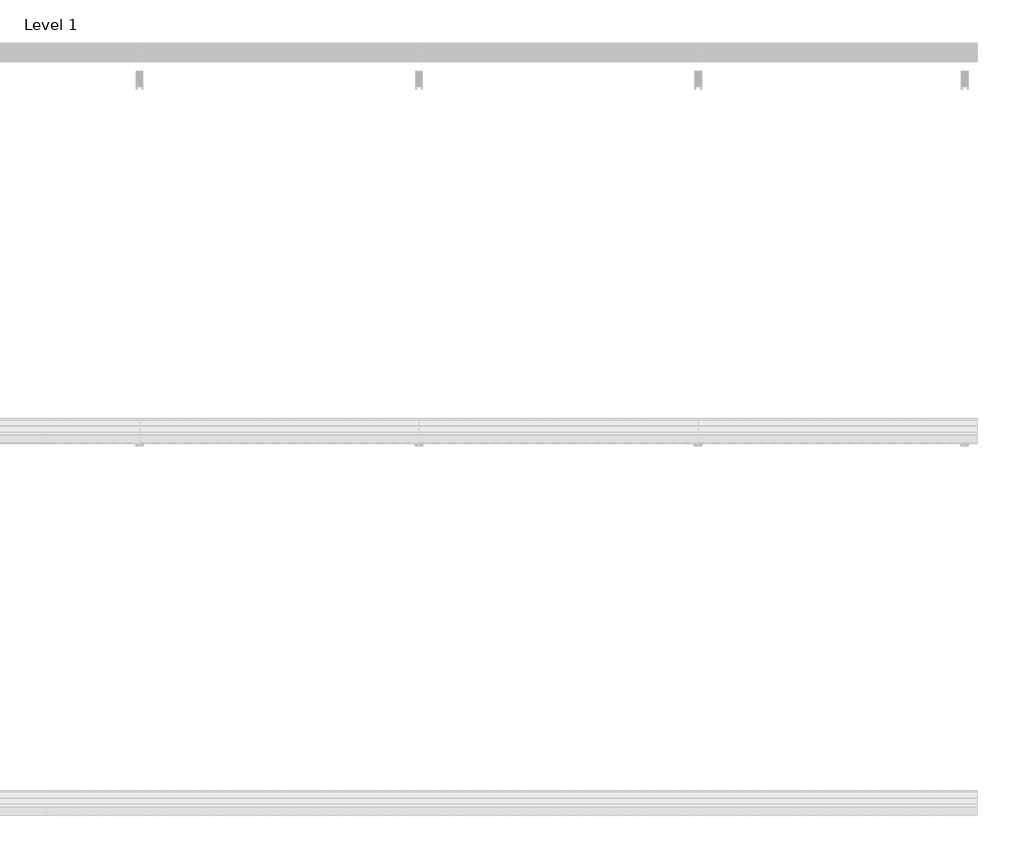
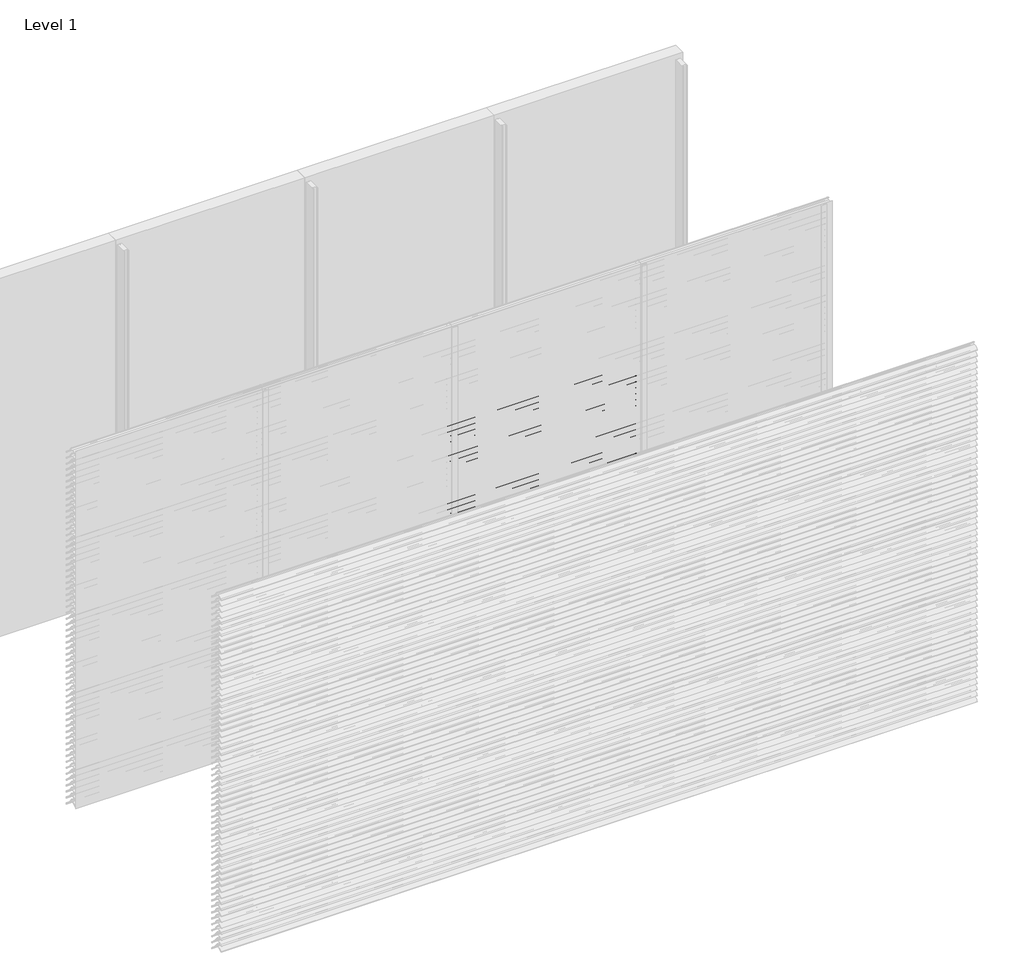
# One storey, part 100 of 173: 17 proxies.
"""IFC4 building model written with IfcOpenShell, lengths in millimetres."""

from ifc_helpers import new_model, si_unit, point, frame, frame_2d, origin, place, context, project, spatial, polyline, circle_curve, trimmed, segment, composite_curve, outline, extrude, element, save

model = new_model("IFC4")

# Units and contexts
model_context = context("Model", 3, world=origin())
ifc_project = project(units=[si_unit("LENGTHUNIT", "METRE", prefix="MILLI")], contexts=[model_context])

# Site, building, storey
site = spatial("IfcSite", under=ifc_project)
building = spatial("IfcBuilding", under=site)
storey = spatial("IfcBuildingStorey", under=building, Name="Level 1", Elevation=0.0)

# Proxies
placement = place(None, origin())
element("IfcBuildingElementProxy", 1, Name="Wall Sweeps", at=placement, inside=storey, context=model_context, shape_type="SweptSolid", body=[
    extrude(outline(composite_curve([segment(polyline([(-23998.0, 2109.1474905), (-23998.0, 2111.6227417)]), True, "CONTINUOUS"), segment(trimmed(circle_curve(frame_2d((-23951.2682172, 2066.2200208)), 65.1557103), [point((-23998.0, 2111.6227417))], [point((-23954.4014323, 2131.3003524))], False, "CARTESIAN"), True, "CONTINUOUS"), segment(polyline([(-23954.4014323, 2131.3003524), (-23934.8315836, 2131.3003524)]), True, "CONTINUOUS"), segment(trimmed(circle_curve(frame_2d((-23732.7329489, 2278.5533172)), 250.0545817), [point((-23934.8315836, 2131.3003524))], [point((-23941.4452143, 2140.8344583))], False, "CARTESIAN"), True, "CONTINUOUS"), segment(trimmed(circle_curve(frame_2d((-23953.2981792, 2135.1737835)), 13.1352966), [point((-23941.4452143, 2140.8344583))], [point((-23953.8171475, 2148.298824))], True, "CARTESIAN"), True, "CONTINUOUS"), segment(polyline([(-23953.8171475, 2148.298824), (-23953.8171475, 2150.0)]), True, "CONTINUOUS"), segment(trimmed(circle_curve(frame_2d((-23953.2981792, 2135.1737835)), 14.8352966), [point((-23953.8171475, 2150.0))], [point((-23939.9637661, 2141.6760487))], False, "CARTESIAN"), True, "CONTINUOUS"), segment(trimmed(circle_curve(frame_2d((-23732.7329489, 2278.5533172)), 248.3545817), [point((-23939.9637661, 2141.6760487))], [point((-23873.8787895, 2074.2059416))], True, "CARTESIAN"), True, "CONTINUOUS"), segment(trimmed(circle_curve(frame_2d((-23883.8147537, 2061.6649442)), 16.0), [point((-23873.8787895, 2074.2059416))], [point((-23867.8648347, 2060.4))], False, "CARTESIAN"), True, "CONTINUOUS"), segment(polyline([(-23867.8648347, 2060.4), (-23869.6712069, 2060.4)]), True, "CONTINUOUS"), segment(trimmed(circle_curve(frame_2d((-23883.8147537, 2061.6649442)), 14.2), [point((-23869.6712069, 2060.4))], [point((-23874.9518628, 2072.7594998))], True, "CARTESIAN"), True, "CONTINUOUS"), segment(trimmed(circle_curve(frame_2d((-23732.7329489, 2278.5533172)), 250.1545817), [point((-23874.9518628, 2072.7594998))], [point((-23933.7064024, 2129.6003524))], False, "CARTESIAN"), True, "CONTINUOUS"), segment(polyline([(-23933.7064024, 2129.6003524), (-23954.3602632, 2129.6003524)]), True, "CONTINUOUS"), segment(trimmed(circle_curve(frame_2d((-23951.2682172, 2066.2200208)), 63.4557103), [point((-23954.3602632, 2129.6003524))], [point((-23998.0, 2109.1474905))], True, "CARTESIAN"), True, "CONTINUOUS")], self_intersect=False)), frame((3000.0, 0.0, 0.0), z_axis=(1.0, 0.0, 0.0), x_axis=(0.0, 1.0, 0.0)), (0.0, 0.0, 1.0), 1500.0),
])
element("IfcBuildingElementProxy", 2, Name="Wall Sweeps", at=placement, inside=storey, context=model_context, shape_type="SweptSolid", body=[
    extrude(outline(composite_curve([segment(polyline([(-23998.0, 2059.1474905), (-23998.0, 2061.6227417)]), True, "CONTINUOUS"), segment(trimmed(circle_curve(frame_2d((-23951.2682172, 2016.2200208)), 65.1557103), [point((-23998.0, 2061.6227417))], [point((-23954.4014323, 2081.3003524))], False, "CARTESIAN"), True, "CONTINUOUS"), segment(polyline([(-23954.4014323, 2081.3003524), (-23934.8315836, 2081.3003524)]), True, "CONTINUOUS"), segment(trimmed(circle_curve(frame_2d((-23732.7329489, 2228.5533172)), 250.0545817), [point((-23934.8315836, 2081.3003524))], [point((-23941.4452143, 2090.8344583))], False, "CARTESIAN"), True, "CONTINUOUS"), segment(trimmed(circle_curve(frame_2d((-23953.2981792, 2085.1737835)), 13.1352966), [point((-23941.4452143, 2090.8344583))], [point((-23953.8171475, 2098.298824))], True, "CARTESIAN"), True, "CONTINUOUS"), segment(polyline([(-23953.8171475, 2098.298824), (-23953.8171475, 2100.0)]), True, "CONTINUOUS"), segment(trimmed(circle_curve(frame_2d((-23953.2981792, 2085.1737835)), 14.8352966), [point((-23953.8171475, 2100.0))], [point((-23939.9637661, 2091.6760487))], False, "CARTESIAN"), True, "CONTINUOUS"), segment(trimmed(circle_curve(frame_2d((-23732.7329489, 2228.5533172)), 248.3545817), [point((-23939.9637661, 2091.6760487))], [point((-23873.8787895, 2024.2059416))], True, "CARTESIAN"), True, "CONTINUOUS"), segment(trimmed(circle_curve(frame_2d((-23883.8147537, 2011.6649442)), 16.0), [point((-23873.8787895, 2024.2059416))], [point((-23867.8648347, 2010.4))], False, "CARTESIAN"), True, "CONTINUOUS"), segment(polyline([(-23867.8648347, 2010.4), (-23869.6712069, 2010.4)]), True, "CONTINUOUS"), segment(trimmed(circle_curve(frame_2d((-23883.8147537, 2011.6649442)), 14.2), [point((-23869.6712069, 2010.4))], [point((-23874.9518628, 2022.7594998))], True, "CARTESIAN"), True, "CONTINUOUS"), segment(trimmed(circle_curve(frame_2d((-23732.7329489, 2228.5533172)), 250.1545817), [point((-23874.9518628, 2022.7594998))], [point((-23933.7064024, 2079.6003524))], False, "CARTESIAN"), True, "CONTINUOUS"), segment(polyline([(-23933.7064024, 2079.6003524), (-23954.3602632, 2079.6003524)]), True, "CONTINUOUS"), segment(trimmed(circle_curve(frame_2d((-23951.2682172, 2016.2200208)), 63.4557103), [point((-23954.3602632, 2079.6003524))], [point((-23998.0, 2059.1474905))], True, "CARTESIAN"), True, "CONTINUOUS")], self_intersect=False)), frame((3000.0, 0.0, 0.0), z_axis=(1.0, 0.0, 0.0), x_axis=(0.0, 1.0, 0.0)), (0.0, 0.0, 1.0), 1500.0),
])
element("IfcBuildingElementProxy", 3, Name="Wall Sweeps", at=placement, inside=storey, context=model_context, shape_type="SweptSolid", body=[
    extrude(outline(composite_curve([segment(polyline([(-23998.0, 2009.1474905), (-23998.0, 2011.6227417)]), True, "CONTINUOUS"), segment(trimmed(circle_curve(frame_2d((-23951.2682172, 1966.2200208)), 65.1557103), [point((-23998.0, 2011.6227417))], [point((-23954.4014323, 2031.3003524))], False, "CARTESIAN"), True, "CONTINUOUS"), segment(polyline([(-23954.4014323, 2031.3003524), (-23934.8315836, 2031.3003524)]), True, "CONTINUOUS"), segment(trimmed(circle_curve(frame_2d((-23732.7329489, 2178.5533172)), 250.0545817), [point((-23934.8315836, 2031.3003524))], [point((-23941.4452143, 2040.8344583))], False, "CARTESIAN"), True, "CONTINUOUS"), segment(trimmed(circle_curve(frame_2d((-23953.2981792, 2035.1737835)), 13.1352966), [point((-23941.4452143, 2040.8344583))], [point((-23953.8171475, 2048.298824))], True, "CARTESIAN"), True, "CONTINUOUS"), segment(polyline([(-23953.8171475, 2048.298824), (-23953.8171475, 2050.0)]), True, "CONTINUOUS"), segment(trimmed(circle_curve(frame_2d((-23953.2981792, 2035.1737835)), 14.8352966), [point((-23953.8171475, 2050.0))], [point((-23939.9637661, 2041.6760487))], False, "CARTESIAN"), True, "CONTINUOUS"), segment(trimmed(circle_curve(frame_2d((-23732.7329489, 2178.5533172)), 248.3545817), [point((-23939.9637661, 2041.6760487))], [point((-23873.8787895, 1974.2059416))], True, "CARTESIAN"), True, "CONTINUOUS"), segment(trimmed(circle_curve(frame_2d((-23883.8147537, 1961.6649442)), 16.0), [point((-23873.8787895, 1974.2059416))], [point((-23867.8648347, 1960.4))], False, "CARTESIAN"), True, "CONTINUOUS"), segment(polyline([(-23867.8648347, 1960.4), (-23869.6712069, 1960.4)]), True, "CONTINUOUS"), segment(trimmed(circle_curve(frame_2d((-23883.8147537, 1961.6649442)), 14.2), [point((-23869.6712069, 1960.4))], [point((-23874.9518628, 1972.7594998))], True, "CARTESIAN"), True, "CONTINUOUS"), segment(trimmed(circle_curve(frame_2d((-23732.7329489, 2178.5533172)), 250.1545817), [point((-23874.9518628, 1972.7594998))], [point((-23933.7064024, 2029.6003524))], False, "CARTESIAN"), True, "CONTINUOUS"), segment(polyline([(-23933.7064024, 2029.6003524), (-23954.3602632, 2029.6003524)]), True, "CONTINUOUS"), segment(trimmed(circle_curve(frame_2d((-23951.2682172, 1966.2200208)), 63.4557103), [point((-23954.3602632, 2029.6003524))], [point((-23998.0, 2009.1474905))], True, "CARTESIAN"), True, "CONTINUOUS")], self_intersect=False)), frame((3000.0, 0.0, 0.0), z_axis=(1.0, 0.0, 0.0), x_axis=(0.0, 1.0, 0.0)), (0.0, 0.0, 1.0), 1500.0),
])
element("IfcBuildingElementProxy", 4, Name="Wall Sweeps", at=placement, inside=storey, context=model_context, shape_type="SweptSolid", body=[
    extrude(outline(composite_curve([segment(polyline([(-23998.0, 1959.1474905), (-23998.0, 1961.6227417)]), True, "CONTINUOUS"), segment(trimmed(circle_curve(frame_2d((-23951.2682172, 1916.2200208)), 65.1557103), [point((-23998.0, 1961.6227417))], [point((-23954.4014323, 1981.3003524))], False, "CARTESIAN"), True, "CONTINUOUS"), segment(polyline([(-23954.4014323, 1981.3003524), (-23934.8315836, 1981.3003524)]), True, "CONTINUOUS"), segment(trimmed(circle_curve(frame_2d((-23732.7329489, 2128.5533172)), 250.0545817), [point((-23934.8315836, 1981.3003524))], [point((-23941.4452143, 1990.8344583))], False, "CARTESIAN"), True, "CONTINUOUS"), segment(trimmed(circle_curve(frame_2d((-23953.2981792, 1985.1737835)), 13.1352966), [point((-23941.4452143, 1990.8344583))], [point((-23953.8171475, 1998.298824))], True, "CARTESIAN"), True, "CONTINUOUS"), segment(polyline([(-23953.8171475, 1998.298824), (-23953.8171475, 2000.0)]), True, "CONTINUOUS"), segment(trimmed(circle_curve(frame_2d((-23953.2981792, 1985.1737835)), 14.8352966), [point((-23953.8171475, 2000.0))], [point((-23939.9637661, 1991.6760487))], False, "CARTESIAN"), True, "CONTINUOUS"), segment(trimmed(circle_curve(frame_2d((-23732.7329489, 2128.5533172)), 248.3545817), [point((-23939.9637661, 1991.6760487))], [point((-23873.8787895, 1924.2059416))], True, "CARTESIAN"), True, "CONTINUOUS"), segment(trimmed(circle_curve(frame_2d((-23883.8147537, 1911.6649442)), 16.0), [point((-23873.8787895, 1924.2059416))], [point((-23867.8648347, 1910.4))], False, "CARTESIAN"), True, "CONTINUOUS"), segment(polyline([(-23867.8648347, 1910.4), (-23869.6712069, 1910.4)]), True, "CONTINUOUS"), segment(trimmed(circle_curve(frame_2d((-23883.8147537, 1911.6649442)), 14.2), [point((-23869.6712069, 1910.4))], [point((-23874.9518628, 1922.7594998))], True, "CARTESIAN"), True, "CONTINUOUS"), segment(trimmed(circle_curve(frame_2d((-23732.7329489, 2128.5533172)), 250.1545817), [point((-23874.9518628, 1922.7594998))], [point((-23933.7064024, 1979.6003524))], False, "CARTESIAN"), True, "CONTINUOUS"), segment(polyline([(-23933.7064024, 1979.6003524), (-23954.3602632, 1979.6003524)]), True, "CONTINUOUS"), segment(trimmed(circle_curve(frame_2d((-23951.2682172, 1916.2200208)), 63.4557103), [point((-23954.3602632, 1979.6003524))], [point((-23998.0, 1959.1474905))], True, "CARTESIAN"), True, "CONTINUOUS")], self_intersect=False)), frame((3000.0, 0.0, 0.0), z_axis=(1.0, 0.0, 0.0), x_axis=(0.0, 1.0, 0.0)), (0.0, 0.0, 1.0), 1500.0),
])
element("IfcBuildingElementProxy", 5, Name="Wall Sweeps", at=placement, inside=storey, context=model_context, shape_type="SweptSolid", body=[
    extrude(outline(composite_curve([segment(polyline([(-23998.0, 1909.1474905), (-23998.0, 1911.6227417)]), True, "CONTINUOUS"), segment(trimmed(circle_curve(frame_2d((-23951.2682172, 1866.2200208)), 65.1557103), [point((-23998.0, 1911.6227417))], [point((-23954.4014323, 1931.3003524))], False, "CARTESIAN"), True, "CONTINUOUS"), segment(polyline([(-23954.4014323, 1931.3003524), (-23934.8315836, 1931.3003524)]), True, "CONTINUOUS"), segment(trimmed(circle_curve(frame_2d((-23732.7329489, 2078.5533172)), 250.0545817), [point((-23934.8315836, 1931.3003524))], [point((-23941.4452143, 1940.8344583))], False, "CARTESIAN"), True, "CONTINUOUS"), segment(trimmed(circle_curve(frame_2d((-23953.2981792, 1935.1737835)), 13.1352966), [point((-23941.4452143, 1940.8344583))], [point((-23953.8171475, 1948.298824))], True, "CARTESIAN"), True, "CONTINUOUS"), segment(polyline([(-23953.8171475, 1948.298824), (-23953.8171475, 1950.0)]), True, "CONTINUOUS"), segment(trimmed(circle_curve(frame_2d((-23953.2981792, 1935.1737835)), 14.8352966), [point((-23953.8171475, 1950.0))], [point((-23939.9637661, 1941.6760487))], False, "CARTESIAN"), True, "CONTINUOUS"), segment(trimmed(circle_curve(frame_2d((-23732.7329489, 2078.5533172)), 248.3545817), [point((-23939.9637661, 1941.6760487))], [point((-23873.8787895, 1874.2059416))], True, "CARTESIAN"), True, "CONTINUOUS"), segment(trimmed(circle_curve(frame_2d((-23883.8147537, 1861.6649442)), 16.0), [point((-23873.8787895, 1874.2059416))], [point((-23867.8648347, 1860.4))], False, "CARTESIAN"), True, "CONTINUOUS"), segment(polyline([(-23867.8648347, 1860.4), (-23869.6712069, 1860.4)]), True, "CONTINUOUS"), segment(trimmed(circle_curve(frame_2d((-23883.8147537, 1861.6649442)), 14.2), [point((-23869.6712069, 1860.4))], [point((-23874.9518628, 1872.7594998))], True, "CARTESIAN"), True, "CONTINUOUS"), segment(trimmed(circle_curve(frame_2d((-23732.7329489, 2078.5533172)), 250.1545817), [point((-23874.9518628, 1872.7594998))], [point((-23933.7064024, 1929.6003524))], False, "CARTESIAN"), True, "CONTINUOUS"), segment(polyline([(-23933.7064024, 1929.6003524), (-23954.3602632, 1929.6003524)]), True, "CONTINUOUS"), segment(trimmed(circle_curve(frame_2d((-23951.2682172, 1866.2200208)), 63.4557103), [point((-23954.3602632, 1929.6003524))], [point((-23998.0, 1909.1474905))], True, "CARTESIAN"), True, "CONTINUOUS")], self_intersect=False)), frame((3000.0, 0.0, 0.0), z_axis=(1.0, 0.0, 0.0), x_axis=(0.0, 1.0, 0.0)), (0.0, 0.0, 1.0), 1500.0),
])
element("IfcBuildingElementProxy", 6, Name="Wall Sweeps", at=placement, inside=storey, context=model_context, shape_type="SweptSolid", body=[
    extrude(outline(composite_curve([segment(polyline([(-23998.0, 1859.1474905), (-23998.0, 1861.6227417)]), True, "CONTINUOUS"), segment(trimmed(circle_curve(frame_2d((-23951.2682172, 1816.2200208)), 65.1557103), [point((-23998.0, 1861.6227417))], [point((-23954.4014323, 1881.3003524))], False, "CARTESIAN"), True, "CONTINUOUS"), segment(polyline([(-23954.4014323, 1881.3003524), (-23934.8315836, 1881.3003524)]), True, "CONTINUOUS"), segment(trimmed(circle_curve(frame_2d((-23732.7329489, 2028.5533172)), 250.0545817), [point((-23934.8315836, 1881.3003524))], [point((-23941.4452143, 1890.8344583))], False, "CARTESIAN"), True, "CONTINUOUS"), segment(trimmed(circle_curve(frame_2d((-23953.2981792, 1885.1737835)), 13.1352966), [point((-23941.4452143, 1890.8344583))], [point((-23953.8171475, 1898.298824))], True, "CARTESIAN"), True, "CONTINUOUS"), segment(polyline([(-23953.8171475, 1898.298824), (-23953.8171475, 1900.0)]), True, "CONTINUOUS"), segment(trimmed(circle_curve(frame_2d((-23953.2981792, 1885.1737835)), 14.8352966), [point((-23953.8171475, 1900.0))], [point((-23939.9637661, 1891.6760487))], False, "CARTESIAN"), True, "CONTINUOUS"), segment(trimmed(circle_curve(frame_2d((-23732.7329489, 2028.5533172)), 248.3545817), [point((-23939.9637661, 1891.6760487))], [point((-23873.8787895, 1824.2059416))], True, "CARTESIAN"), True, "CONTINUOUS"), segment(trimmed(circle_curve(frame_2d((-23883.8147537, 1811.6649442)), 16.0), [point((-23873.8787895, 1824.2059416))], [point((-23867.8648347, 1810.4))], False, "CARTESIAN"), True, "CONTINUOUS"), segment(polyline([(-23867.8648347, 1810.4), (-23869.6712069, 1810.4)]), True, "CONTINUOUS"), segment(trimmed(circle_curve(frame_2d((-23883.8147537, 1811.6649442)), 14.2), [point((-23869.6712069, 1810.4))], [point((-23874.9518628, 1822.7594998))], True, "CARTESIAN"), True, "CONTINUOUS"), segment(trimmed(circle_curve(frame_2d((-23732.7329489, 2028.5533172)), 250.1545817), [point((-23874.9518628, 1822.7594998))], [point((-23933.7064024, 1879.6003524))], False, "CARTESIAN"), True, "CONTINUOUS"), segment(polyline([(-23933.7064024, 1879.6003524), (-23954.3602632, 1879.6003524)]), True, "CONTINUOUS"), segment(trimmed(circle_curve(frame_2d((-23951.2682172, 1816.2200208)), 63.4557103), [point((-23954.3602632, 1879.6003524))], [point((-23998.0, 1859.1474905))], True, "CARTESIAN"), True, "CONTINUOUS")], self_intersect=False)), frame((3000.0, 0.0, 0.0), z_axis=(1.0, 0.0, 0.0), x_axis=(0.0, 1.0, 0.0)), (0.0, 0.0, 1.0), 1500.0),
])
element("IfcBuildingElementProxy", 7, Name="Wall Sweeps", at=placement, inside=storey, context=model_context, shape_type="SweptSolid", body=[
    extrude(outline(composite_curve([segment(polyline([(-23998.0, 1809.1474905), (-23998.0, 1811.6227417)]), True, "CONTINUOUS"), segment(trimmed(circle_curve(frame_2d((-23951.2682172, 1766.2200208)), 65.1557103), [point((-23998.0, 1811.6227417))], [point((-23954.4014323, 1831.3003524))], False, "CARTESIAN"), True, "CONTINUOUS"), segment(polyline([(-23954.4014323, 1831.3003524), (-23934.8315836, 1831.3003524)]), True, "CONTINUOUS"), segment(trimmed(circle_curve(frame_2d((-23732.7329489, 1978.5533172)), 250.0545817), [point((-23934.8315836, 1831.3003524))], [point((-23941.4452143, 1840.8344583))], False, "CARTESIAN"), True, "CONTINUOUS"), segment(trimmed(circle_curve(frame_2d((-23953.2981792, 1835.1737835)), 13.1352966), [point((-23941.4452143, 1840.8344583))], [point((-23953.8171475, 1848.298824))], True, "CARTESIAN"), True, "CONTINUOUS"), segment(polyline([(-23953.8171475, 1848.298824), (-23953.8171475, 1850.0)]), True, "CONTINUOUS"), segment(trimmed(circle_curve(frame_2d((-23953.2981792, 1835.1737835)), 14.8352966), [point((-23953.8171475, 1850.0))], [point((-23939.9637661, 1841.6760487))], False, "CARTESIAN"), True, "CONTINUOUS"), segment(trimmed(circle_curve(frame_2d((-23732.7329489, 1978.5533172)), 248.3545817), [point((-23939.9637661, 1841.6760487))], [point((-23873.8787895, 1774.2059416))], True, "CARTESIAN"), True, "CONTINUOUS"), segment(trimmed(circle_curve(frame_2d((-23883.8147537, 1761.6649442)), 16.0), [point((-23873.8787895, 1774.2059416))], [point((-23867.8648347, 1760.4))], False, "CARTESIAN"), True, "CONTINUOUS"), segment(polyline([(-23867.8648347, 1760.4), (-23869.6712069, 1760.4)]), True, "CONTINUOUS"), segment(trimmed(circle_curve(frame_2d((-23883.8147537, 1761.6649442)), 14.2), [point((-23869.6712069, 1760.4))], [point((-23874.9518628, 1772.7594998))], True, "CARTESIAN"), True, "CONTINUOUS"), segment(trimmed(circle_curve(frame_2d((-23732.7329489, 1978.5533172)), 250.1545817), [point((-23874.9518628, 1772.7594998))], [point((-23933.7064024, 1829.6003524))], False, "CARTESIAN"), True, "CONTINUOUS"), segment(polyline([(-23933.7064024, 1829.6003524), (-23954.3602632, 1829.6003524)]), True, "CONTINUOUS"), segment(trimmed(circle_curve(frame_2d((-23951.2682172, 1766.2200208)), 63.4557103), [point((-23954.3602632, 1829.6003524))], [point((-23998.0, 1809.1474905))], True, "CARTESIAN"), True, "CONTINUOUS")], self_intersect=False)), frame((3000.0, 0.0, 0.0), z_axis=(1.0, 0.0, 0.0), x_axis=(0.0, 1.0, 0.0)), (0.0, 0.0, 1.0), 1500.0),
])
element("IfcBuildingElementProxy", 8, Name="Wall Sweeps", at=placement, inside=storey, context=model_context, shape_type="SweptSolid", body=[
    extrude(outline(composite_curve([segment(polyline([(-23998.0, 1759.1474905), (-23998.0, 1761.6227417)]), True, "CONTINUOUS"), segment(trimmed(circle_curve(frame_2d((-23951.2682172, 1716.2200208)), 65.1557103), [point((-23998.0, 1761.6227417))], [point((-23954.4014323, 1781.3003524))], False, "CARTESIAN"), True, "CONTINUOUS"), segment(polyline([(-23954.4014323, 1781.3003524), (-23934.8315836, 1781.3003524)]), True, "CONTINUOUS"), segment(trimmed(circle_curve(frame_2d((-23732.7329489, 1928.5533172)), 250.0545817), [point((-23934.8315836, 1781.3003524))], [point((-23941.4452143, 1790.8344583))], False, "CARTESIAN"), True, "CONTINUOUS"), segment(trimmed(circle_curve(frame_2d((-23953.2981792, 1785.1737835)), 13.1352966), [point((-23941.4452143, 1790.8344583))], [point((-23953.8171475, 1798.298824))], True, "CARTESIAN"), True, "CONTINUOUS"), segment(polyline([(-23953.8171475, 1798.298824), (-23953.8171475, 1800.0)]), True, "CONTINUOUS"), segment(trimmed(circle_curve(frame_2d((-23953.2981792, 1785.1737835)), 14.8352966), [point((-23953.8171475, 1800.0))], [point((-23939.9637661, 1791.6760487))], False, "CARTESIAN"), True, "CONTINUOUS"), segment(trimmed(circle_curve(frame_2d((-23732.7329489, 1928.5533172)), 248.3545817), [point((-23939.9637661, 1791.6760487))], [point((-23873.8787895, 1724.2059416))], True, "CARTESIAN"), True, "CONTINUOUS"), segment(trimmed(circle_curve(frame_2d((-23883.8147537, 1711.6649442)), 16.0), [point((-23873.8787895, 1724.2059416))], [point((-23867.8648347, 1710.4))], False, "CARTESIAN"), True, "CONTINUOUS"), segment(polyline([(-23867.8648347, 1710.4), (-23869.6712069, 1710.4)]), True, "CONTINUOUS"), segment(trimmed(circle_curve(frame_2d((-23883.8147537, 1711.6649442)), 14.2), [point((-23869.6712069, 1710.4))], [point((-23874.9518628, 1722.7594998))], True, "CARTESIAN"), True, "CONTINUOUS"), segment(trimmed(circle_curve(frame_2d((-23732.7329489, 1928.5533172)), 250.1545817), [point((-23874.9518628, 1722.7594998))], [point((-23933.7064024, 1779.6003524))], False, "CARTESIAN"), True, "CONTINUOUS"), segment(polyline([(-23933.7064024, 1779.6003524), (-23954.3602632, 1779.6003524)]), True, "CONTINUOUS"), segment(trimmed(circle_curve(frame_2d((-23951.2682172, 1716.2200208)), 63.4557103), [point((-23954.3602632, 1779.6003524))], [point((-23998.0, 1759.1474905))], True, "CARTESIAN"), True, "CONTINUOUS")], self_intersect=False)), frame((3000.0, 0.0, 0.0), z_axis=(1.0, 0.0, 0.0), x_axis=(0.0, 1.0, 0.0)), (0.0, 0.0, 1.0), 1500.0),
])
element("IfcBuildingElementProxy", 9, Name="Wall Sweeps", at=placement, inside=storey, context=model_context, shape_type="SweptSolid", body=[
    extrude(outline(composite_curve([segment(polyline([(-23998.0, 1709.1474905), (-23998.0, 1711.6227417)]), True, "CONTINUOUS"), segment(trimmed(circle_curve(frame_2d((-23951.2682172, 1666.2200208)), 65.1557103), [point((-23998.0, 1711.6227417))], [point((-23954.4014323, 1731.3003524))], False, "CARTESIAN"), True, "CONTINUOUS"), segment(polyline([(-23954.4014323, 1731.3003524), (-23934.8315836, 1731.3003524)]), True, "CONTINUOUS"), segment(trimmed(circle_curve(frame_2d((-23732.7329489, 1878.5533172)), 250.0545817), [point((-23934.8315836, 1731.3003524))], [point((-23941.4452143, 1740.8344583))], False, "CARTESIAN"), True, "CONTINUOUS"), segment(trimmed(circle_curve(frame_2d((-23953.2981792, 1735.1737835)), 13.1352966), [point((-23941.4452143, 1740.8344583))], [point((-23953.8171475, 1748.298824))], True, "CARTESIAN"), True, "CONTINUOUS"), segment(polyline([(-23953.8171475, 1748.298824), (-23953.8171475, 1750.0)]), True, "CONTINUOUS"), segment(trimmed(circle_curve(frame_2d((-23953.2981792, 1735.1737835)), 14.8352966), [point((-23953.8171475, 1750.0))], [point((-23939.9637661, 1741.6760487))], False, "CARTESIAN"), True, "CONTINUOUS"), segment(trimmed(circle_curve(frame_2d((-23732.7329489, 1878.5533172)), 248.3545817), [point((-23939.9637661, 1741.6760487))], [point((-23873.8787895, 1674.2059416))], True, "CARTESIAN"), True, "CONTINUOUS"), segment(trimmed(circle_curve(frame_2d((-23883.8147537, 1661.6649442)), 16.0), [point((-23873.8787895, 1674.2059416))], [point((-23867.8648347, 1660.4))], False, "CARTESIAN"), True, "CONTINUOUS"), segment(polyline([(-23867.8648347, 1660.4), (-23869.6712069, 1660.4)]), True, "CONTINUOUS"), segment(trimmed(circle_curve(frame_2d((-23883.8147537, 1661.6649442)), 14.2), [point((-23869.6712069, 1660.4))], [point((-23874.9518628, 1672.7594998))], True, "CARTESIAN"), True, "CONTINUOUS"), segment(trimmed(circle_curve(frame_2d((-23732.7329489, 1878.5533172)), 250.1545817), [point((-23874.9518628, 1672.7594998))], [point((-23933.7064024, 1729.6003524))], False, "CARTESIAN"), True, "CONTINUOUS"), segment(polyline([(-23933.7064024, 1729.6003524), (-23954.3602632, 1729.6003524)]), True, "CONTINUOUS"), segment(trimmed(circle_curve(frame_2d((-23951.2682172, 1666.2200208)), 63.4557103), [point((-23954.3602632, 1729.6003524))], [point((-23998.0, 1709.1474905))], True, "CARTESIAN"), True, "CONTINUOUS")], self_intersect=False)), frame((3000.0, 0.0, 0.0), z_axis=(1.0, 0.0, 0.0), x_axis=(0.0, 1.0, 0.0)), (0.0, 0.0, 1.0), 1500.0),
])
element("IfcBuildingElementProxy", 10, Name="Wall Sweeps", at=placement, inside=storey, context=model_context, shape_type="SweptSolid", body=[
    extrude(outline(composite_curve([segment(polyline([(-23998.0, 1659.1474905), (-23998.0, 1661.6227417)]), True, "CONTINUOUS"), segment(trimmed(circle_curve(frame_2d((-23951.2682172, 1616.2200208)), 65.1557103), [point((-23998.0, 1661.6227417))], [point((-23954.4014323, 1681.3003524))], False, "CARTESIAN"), True, "CONTINUOUS"), segment(polyline([(-23954.4014323, 1681.3003524), (-23934.8315836, 1681.3003524)]), True, "CONTINUOUS"), segment(trimmed(circle_curve(frame_2d((-23732.7329489, 1828.5533172)), 250.0545817), [point((-23934.8315836, 1681.3003524))], [point((-23941.4452143, 1690.8344583))], False, "CARTESIAN"), True, "CONTINUOUS"), segment(trimmed(circle_curve(frame_2d((-23953.2981792, 1685.1737835)), 13.1352966), [point((-23941.4452143, 1690.8344583))], [point((-23953.8171475, 1698.298824))], True, "CARTESIAN"), True, "CONTINUOUS"), segment(polyline([(-23953.8171475, 1698.298824), (-23953.8171475, 1700.0)]), True, "CONTINUOUS"), segment(trimmed(circle_curve(frame_2d((-23953.2981792, 1685.1737835)), 14.8352966), [point((-23953.8171475, 1700.0))], [point((-23939.9637661, 1691.6760487))], False, "CARTESIAN"), True, "CONTINUOUS"), segment(trimmed(circle_curve(frame_2d((-23732.7329489, 1828.5533172)), 248.3545817), [point((-23939.9637661, 1691.6760487))], [point((-23873.8787895, 1624.2059416))], True, "CARTESIAN"), True, "CONTINUOUS"), segment(trimmed(circle_curve(frame_2d((-23883.8147537, 1611.6649442)), 16.0), [point((-23873.8787895, 1624.2059416))], [point((-23867.8648347, 1610.4))], False, "CARTESIAN"), True, "CONTINUOUS"), segment(polyline([(-23867.8648347, 1610.4), (-23869.6712069, 1610.4)]), True, "CONTINUOUS"), segment(trimmed(circle_curve(frame_2d((-23883.8147537, 1611.6649442)), 14.2), [point((-23869.6712069, 1610.4))], [point((-23874.9518628, 1622.7594998))], True, "CARTESIAN"), True, "CONTINUOUS"), segment(trimmed(circle_curve(frame_2d((-23732.7329489, 1828.5533172)), 250.1545817), [point((-23874.9518628, 1622.7594998))], [point((-23933.7064024, 1679.6003524))], False, "CARTESIAN"), True, "CONTINUOUS"), segment(polyline([(-23933.7064024, 1679.6003524), (-23954.3602632, 1679.6003524)]), True, "CONTINUOUS"), segment(trimmed(circle_curve(frame_2d((-23951.2682172, 1616.2200208)), 63.4557103), [point((-23954.3602632, 1679.6003524))], [point((-23998.0, 1659.1474905))], True, "CARTESIAN"), True, "CONTINUOUS")], self_intersect=False)), frame((3000.0, 0.0, 0.0), z_axis=(1.0, 0.0, 0.0), x_axis=(0.0, 1.0, 0.0)), (0.0, 0.0, 1.0), 1500.0),
])
element("IfcBuildingElementProxy", 11, Name="Wall Sweeps", at=placement, inside=storey, context=model_context, shape_type="SweptSolid", body=[
    extrude(outline(composite_curve([segment(polyline([(-23998.0, 1609.1474905), (-23998.0, 1611.6227417)]), True, "CONTINUOUS"), segment(trimmed(circle_curve(frame_2d((-23951.2682172, 1566.2200208)), 65.1557103), [point((-23998.0, 1611.6227417))], [point((-23954.4014323, 1631.3003524))], False, "CARTESIAN"), True, "CONTINUOUS"), segment(polyline([(-23954.4014323, 1631.3003524), (-23934.8315836, 1631.3003524)]), True, "CONTINUOUS"), segment(trimmed(circle_curve(frame_2d((-23732.7329489, 1778.5533172)), 250.0545817), [point((-23934.8315836, 1631.3003524))], [point((-23941.4452143, 1640.8344583))], False, "CARTESIAN"), True, "CONTINUOUS"), segment(trimmed(circle_curve(frame_2d((-23953.2981792, 1635.1737835)), 13.1352966), [point((-23941.4452143, 1640.8344583))], [point((-23953.8171475, 1648.298824))], True, "CARTESIAN"), True, "CONTINUOUS"), segment(polyline([(-23953.8171475, 1648.298824), (-23953.8171475, 1650.0)]), True, "CONTINUOUS"), segment(trimmed(circle_curve(frame_2d((-23953.2981792, 1635.1737835)), 14.8352966), [point((-23953.8171475, 1650.0))], [point((-23939.9637661, 1641.6760487))], False, "CARTESIAN"), True, "CONTINUOUS"), segment(trimmed(circle_curve(frame_2d((-23732.7329489, 1778.5533172)), 248.3545817), [point((-23939.9637661, 1641.6760487))], [point((-23873.8787895, 1574.2059416))], True, "CARTESIAN"), True, "CONTINUOUS"), segment(trimmed(circle_curve(frame_2d((-23883.8147537, 1561.6649442)), 16.0), [point((-23873.8787895, 1574.2059416))], [point((-23867.8648347, 1560.4))], False, "CARTESIAN"), True, "CONTINUOUS"), segment(polyline([(-23867.8648347, 1560.4), (-23869.6712069, 1560.4)]), True, "CONTINUOUS"), segment(trimmed(circle_curve(frame_2d((-23883.8147537, 1561.6649442)), 14.2), [point((-23869.6712069, 1560.4))], [point((-23874.9518628, 1572.7594998))], True, "CARTESIAN"), True, "CONTINUOUS"), segment(trimmed(circle_curve(frame_2d((-23732.7329489, 1778.5533172)), 250.1545817), [point((-23874.9518628, 1572.7594998))], [point((-23933.7064024, 1629.6003524))], False, "CARTESIAN"), True, "CONTINUOUS"), segment(polyline([(-23933.7064024, 1629.6003524), (-23954.3602632, 1629.6003524)]), True, "CONTINUOUS"), segment(trimmed(circle_curve(frame_2d((-23951.2682172, 1566.2200208)), 63.4557103), [point((-23954.3602632, 1629.6003524))], [point((-23998.0, 1609.1474905))], True, "CARTESIAN"), True, "CONTINUOUS")], self_intersect=False)), frame((3000.0, 0.0, 0.0), z_axis=(1.0, 0.0, 0.0), x_axis=(0.0, 1.0, 0.0)), (0.0, 0.0, 1.0), 1500.0),
])
element("IfcBuildingElementProxy", 12, Name="Wall Sweeps", at=placement, inside=storey, context=model_context, shape_type="SweptSolid", body=[
    extrude(outline(composite_curve([segment(polyline([(-23998.0, 1559.1474905), (-23998.0, 1561.6227417)]), True, "CONTINUOUS"), segment(trimmed(circle_curve(frame_2d((-23951.2682172, 1516.2200208)), 65.1557103), [point((-23998.0, 1561.6227417))], [point((-23954.4014323, 1581.3003524))], False, "CARTESIAN"), True, "CONTINUOUS"), segment(polyline([(-23954.4014323, 1581.3003524), (-23934.8315836, 1581.3003524)]), True, "CONTINUOUS"), segment(trimmed(circle_curve(frame_2d((-23732.7329489, 1728.5533172)), 250.0545817), [point((-23934.8315836, 1581.3003524))], [point((-23941.4452143, 1590.8344583))], False, "CARTESIAN"), True, "CONTINUOUS"), segment(trimmed(circle_curve(frame_2d((-23953.2981792, 1585.1737835)), 13.1352966), [point((-23941.4452143, 1590.8344583))], [point((-23953.8171475, 1598.298824))], True, "CARTESIAN"), True, "CONTINUOUS"), segment(polyline([(-23953.8171475, 1598.298824), (-23953.8171475, 1600.0)]), True, "CONTINUOUS"), segment(trimmed(circle_curve(frame_2d((-23953.2981792, 1585.1737835)), 14.8352966), [point((-23953.8171475, 1600.0))], [point((-23939.9637661, 1591.6760487))], False, "CARTESIAN"), True, "CONTINUOUS"), segment(trimmed(circle_curve(frame_2d((-23732.7329489, 1728.5533172)), 248.3545817), [point((-23939.9637661, 1591.6760487))], [point((-23873.8787895, 1524.2059416))], True, "CARTESIAN"), True, "CONTINUOUS"), segment(trimmed(circle_curve(frame_2d((-23883.8147537, 1511.6649442)), 16.0), [point((-23873.8787895, 1524.2059416))], [point((-23867.8648347, 1510.4))], False, "CARTESIAN"), True, "CONTINUOUS"), segment(polyline([(-23867.8648347, 1510.4), (-23869.6712069, 1510.4)]), True, "CONTINUOUS"), segment(trimmed(circle_curve(frame_2d((-23883.8147537, 1511.6649442)), 14.2), [point((-23869.6712069, 1510.4))], [point((-23874.9518628, 1522.7594998))], True, "CARTESIAN"), True, "CONTINUOUS"), segment(trimmed(circle_curve(frame_2d((-23732.7329489, 1728.5533172)), 250.1545817), [point((-23874.9518628, 1522.7594998))], [point((-23933.7064024, 1579.6003524))], False, "CARTESIAN"), True, "CONTINUOUS"), segment(polyline([(-23933.7064024, 1579.6003524), (-23954.3602632, 1579.6003524)]), True, "CONTINUOUS"), segment(trimmed(circle_curve(frame_2d((-23951.2682172, 1516.2200208)), 63.4557103), [point((-23954.3602632, 1579.6003524))], [point((-23998.0, 1559.1474905))], True, "CARTESIAN"), True, "CONTINUOUS")], self_intersect=False)), frame((3000.0, 0.0, 0.0), z_axis=(1.0, 0.0, 0.0), x_axis=(0.0, 1.0, 0.0)), (0.0, 0.0, 1.0), 1500.0),
])
element("IfcBuildingElementProxy", 13, Name="Wall Sweeps", at=placement, inside=storey, context=model_context, shape_type="SweptSolid", body=[
    extrude(outline(composite_curve([segment(polyline([(-23998.0, 1509.1474905), (-23998.0, 1511.6227417)]), True, "CONTINUOUS"), segment(trimmed(circle_curve(frame_2d((-23951.2682172, 1466.2200208)), 65.1557103), [point((-23998.0, 1511.6227417))], [point((-23954.4014323, 1531.3003524))], False, "CARTESIAN"), True, "CONTINUOUS"), segment(polyline([(-23954.4014323, 1531.3003524), (-23934.8315836, 1531.3003524)]), True, "CONTINUOUS"), segment(trimmed(circle_curve(frame_2d((-23732.7329489, 1678.5533172)), 250.0545817), [point((-23934.8315836, 1531.3003524))], [point((-23941.4452143, 1540.8344583))], False, "CARTESIAN"), True, "CONTINUOUS"), segment(trimmed(circle_curve(frame_2d((-23953.2981792, 1535.1737835)), 13.1352966), [point((-23941.4452143, 1540.8344583))], [point((-23953.8171475, 1548.298824))], True, "CARTESIAN"), True, "CONTINUOUS"), segment(polyline([(-23953.8171475, 1548.298824), (-23953.8171475, 1550.0)]), True, "CONTINUOUS"), segment(trimmed(circle_curve(frame_2d((-23953.2981792, 1535.1737835)), 14.8352966), [point((-23953.8171475, 1550.0))], [point((-23939.9637661, 1541.6760487))], False, "CARTESIAN"), True, "CONTINUOUS"), segment(trimmed(circle_curve(frame_2d((-23732.7329489, 1678.5533172)), 248.3545817), [point((-23939.9637661, 1541.6760487))], [point((-23873.8787895, 1474.2059416))], True, "CARTESIAN"), True, "CONTINUOUS"), segment(trimmed(circle_curve(frame_2d((-23883.8147537, 1461.6649442)), 16.0), [point((-23873.8787895, 1474.2059416))], [point((-23867.8648347, 1460.4))], False, "CARTESIAN"), True, "CONTINUOUS"), segment(polyline([(-23867.8648347, 1460.4), (-23869.6712069, 1460.4)]), True, "CONTINUOUS"), segment(trimmed(circle_curve(frame_2d((-23883.8147537, 1461.6649442)), 14.2), [point((-23869.6712069, 1460.4))], [point((-23874.9518628, 1472.7594998))], True, "CARTESIAN"), True, "CONTINUOUS"), segment(trimmed(circle_curve(frame_2d((-23732.7329489, 1678.5533172)), 250.1545817), [point((-23874.9518628, 1472.7594998))], [point((-23933.7064024, 1529.6003524))], False, "CARTESIAN"), True, "CONTINUOUS"), segment(polyline([(-23933.7064024, 1529.6003524), (-23954.3602632, 1529.6003524)]), True, "CONTINUOUS"), segment(trimmed(circle_curve(frame_2d((-23951.2682172, 1466.2200208)), 63.4557103), [point((-23954.3602632, 1529.6003524))], [point((-23998.0, 1509.1474905))], True, "CARTESIAN"), True, "CONTINUOUS")], self_intersect=False)), frame((3000.0, 0.0, 0.0), z_axis=(1.0, 0.0, 0.0), x_axis=(0.0, 1.0, 0.0)), (0.0, 0.0, 1.0), 1500.0),
])
element("IfcBuildingElementProxy", 14, Name="Wall Sweeps", at=placement, inside=storey, context=model_context, shape_type="SweptSolid", body=[
    extrude(outline(composite_curve([segment(polyline([(-23998.0, 1459.1474905), (-23998.0, 1461.6227417)]), True, "CONTINUOUS"), segment(trimmed(circle_curve(frame_2d((-23951.2682172, 1416.2200208)), 65.1557103), [point((-23998.0, 1461.6227417))], [point((-23954.4014323, 1481.3003524))], False, "CARTESIAN"), True, "CONTINUOUS"), segment(polyline([(-23954.4014323, 1481.3003524), (-23934.8315836, 1481.3003524)]), True, "CONTINUOUS"), segment(trimmed(circle_curve(frame_2d((-23732.7329489, 1628.5533172)), 250.0545817), [point((-23934.8315836, 1481.3003524))], [point((-23941.4452143, 1490.8344583))], False, "CARTESIAN"), True, "CONTINUOUS"), segment(trimmed(circle_curve(frame_2d((-23953.2981792, 1485.1737835)), 13.1352966), [point((-23941.4452143, 1490.8344583))], [point((-23953.8171475, 1498.298824))], True, "CARTESIAN"), True, "CONTINUOUS"), segment(polyline([(-23953.8171475, 1498.298824), (-23953.8171475, 1500.0)]), True, "CONTINUOUS"), segment(trimmed(circle_curve(frame_2d((-23953.2981792, 1485.1737835)), 14.8352966), [point((-23953.8171475, 1500.0))], [point((-23939.9637661, 1491.6760487))], False, "CARTESIAN"), True, "CONTINUOUS"), segment(trimmed(circle_curve(frame_2d((-23732.7329489, 1628.5533172)), 248.3545817), [point((-23939.9637661, 1491.6760487))], [point((-23873.8787895, 1424.2059416))], True, "CARTESIAN"), True, "CONTINUOUS"), segment(trimmed(circle_curve(frame_2d((-23883.8147537, 1411.6649442)), 16.0), [point((-23873.8787895, 1424.2059416))], [point((-23867.8648347, 1410.4))], False, "CARTESIAN"), True, "CONTINUOUS"), segment(polyline([(-23867.8648347, 1410.4), (-23869.6712069, 1410.4)]), True, "CONTINUOUS"), segment(trimmed(circle_curve(frame_2d((-23883.8147537, 1411.6649442)), 14.2), [point((-23869.6712069, 1410.4))], [point((-23874.9518628, 1422.7594998))], True, "CARTESIAN"), True, "CONTINUOUS"), segment(trimmed(circle_curve(frame_2d((-23732.7329489, 1628.5533172)), 250.1545817), [point((-23874.9518628, 1422.7594998))], [point((-23933.7064024, 1479.6003524))], False, "CARTESIAN"), True, "CONTINUOUS"), segment(polyline([(-23933.7064024, 1479.6003524), (-23954.3602632, 1479.6003524)]), True, "CONTINUOUS"), segment(trimmed(circle_curve(frame_2d((-23951.2682172, 1416.2200208)), 63.4557103), [point((-23954.3602632, 1479.6003524))], [point((-23998.0, 1459.1474905))], True, "CARTESIAN"), True, "CONTINUOUS")], self_intersect=False)), frame((3000.0, 0.0, 0.0), z_axis=(1.0, 0.0, 0.0), x_axis=(0.0, 1.0, 0.0)), (0.0, 0.0, 1.0), 1500.0),
])
element("IfcBuildingElementProxy", 15, Name="Wall Sweeps", at=placement, inside=storey, context=model_context, shape_type="SweptSolid", body=[
    extrude(outline(composite_curve([segment(polyline([(-23998.0, 1409.1474905), (-23998.0, 1411.6227417)]), True, "CONTINUOUS"), segment(trimmed(circle_curve(frame_2d((-23951.2682172, 1366.2200208)), 65.1557103), [point((-23998.0, 1411.6227417))], [point((-23954.4014323, 1431.3003524))], False, "CARTESIAN"), True, "CONTINUOUS"), segment(polyline([(-23954.4014323, 1431.3003524), (-23934.8315836, 1431.3003524)]), True, "CONTINUOUS"), segment(trimmed(circle_curve(frame_2d((-23732.7329489, 1578.5533172)), 250.0545817), [point((-23934.8315836, 1431.3003524))], [point((-23941.4452143, 1440.8344583))], False, "CARTESIAN"), True, "CONTINUOUS"), segment(trimmed(circle_curve(frame_2d((-23953.2981792, 1435.1737835)), 13.1352966), [point((-23941.4452143, 1440.8344583))], [point((-23953.8171475, 1448.298824))], True, "CARTESIAN"), True, "CONTINUOUS"), segment(polyline([(-23953.8171475, 1448.298824), (-23953.8171475, 1450.0)]), True, "CONTINUOUS"), segment(trimmed(circle_curve(frame_2d((-23953.2981792, 1435.1737835)), 14.8352966), [point((-23953.8171475, 1450.0))], [point((-23939.9637661, 1441.6760487))], False, "CARTESIAN"), True, "CONTINUOUS"), segment(trimmed(circle_curve(frame_2d((-23732.7329489, 1578.5533172)), 248.3545817), [point((-23939.9637661, 1441.6760487))], [point((-23873.8787895, 1374.2059416))], True, "CARTESIAN"), True, "CONTINUOUS"), segment(trimmed(circle_curve(frame_2d((-23883.8147537, 1361.6649442)), 16.0), [point((-23873.8787895, 1374.2059416))], [point((-23867.8648347, 1360.4))], False, "CARTESIAN"), True, "CONTINUOUS"), segment(polyline([(-23867.8648347, 1360.4), (-23869.6712069, 1360.4)]), True, "CONTINUOUS"), segment(trimmed(circle_curve(frame_2d((-23883.8147537, 1361.6649442)), 14.2), [point((-23869.6712069, 1360.4))], [point((-23874.9518628, 1372.7594998))], True, "CARTESIAN"), True, "CONTINUOUS"), segment(trimmed(circle_curve(frame_2d((-23732.7329489, 1578.5533172)), 250.1545817), [point((-23874.9518628, 1372.7594998))], [point((-23933.7064024, 1429.6003524))], False, "CARTESIAN"), True, "CONTINUOUS"), segment(polyline([(-23933.7064024, 1429.6003524), (-23954.3602632, 1429.6003524)]), True, "CONTINUOUS"), segment(trimmed(circle_curve(frame_2d((-23951.2682172, 1366.2200208)), 63.4557103), [point((-23954.3602632, 1429.6003524))], [point((-23998.0, 1409.1474905))], True, "CARTESIAN"), True, "CONTINUOUS")], self_intersect=False)), frame((3000.0, 0.0, 0.0), z_axis=(1.0, 0.0, 0.0), x_axis=(0.0, 1.0, 0.0)), (0.0, 0.0, 1.0), 1500.0),
])
element("IfcBuildingElementProxy", 16, Name="Wall Sweeps", at=placement, inside=storey, context=model_context, shape_type="SweptSolid", body=[
    extrude(outline(composite_curve([segment(polyline([(-23998.0, 1359.1474905), (-23998.0, 1361.6227417)]), True, "CONTINUOUS"), segment(trimmed(circle_curve(frame_2d((-23951.2682172, 1316.2200208)), 65.1557103), [point((-23998.0, 1361.6227417))], [point((-23954.4014323, 1381.3003524))], False, "CARTESIAN"), True, "CONTINUOUS"), segment(polyline([(-23954.4014323, 1381.3003524), (-23934.8315836, 1381.3003524)]), True, "CONTINUOUS"), segment(trimmed(circle_curve(frame_2d((-23732.7329489, 1528.5533172)), 250.0545817), [point((-23934.8315836, 1381.3003524))], [point((-23941.4452143, 1390.8344583))], False, "CARTESIAN"), True, "CONTINUOUS"), segment(trimmed(circle_curve(frame_2d((-23953.2981792, 1385.1737835)), 13.1352966), [point((-23941.4452143, 1390.8344583))], [point((-23953.8171475, 1398.298824))], True, "CARTESIAN"), True, "CONTINUOUS"), segment(polyline([(-23953.8171475, 1398.298824), (-23953.8171475, 1400.0)]), True, "CONTINUOUS"), segment(trimmed(circle_curve(frame_2d((-23953.2981792, 1385.1737835)), 14.8352966), [point((-23953.8171475, 1400.0))], [point((-23939.9637661, 1391.6760487))], False, "CARTESIAN"), True, "CONTINUOUS"), segment(trimmed(circle_curve(frame_2d((-23732.7329489, 1528.5533172)), 248.3545817), [point((-23939.9637661, 1391.6760487))], [point((-23873.8787895, 1324.2059416))], True, "CARTESIAN"), True, "CONTINUOUS"), segment(trimmed(circle_curve(frame_2d((-23883.8147537, 1311.6649442)), 16.0), [point((-23873.8787895, 1324.2059416))], [point((-23867.8648347, 1310.4))], False, "CARTESIAN"), True, "CONTINUOUS"), segment(polyline([(-23867.8648347, 1310.4), (-23869.6712069, 1310.4)]), True, "CONTINUOUS"), segment(trimmed(circle_curve(frame_2d((-23883.8147537, 1311.6649442)), 14.2), [point((-23869.6712069, 1310.4))], [point((-23874.9518628, 1322.7594998))], True, "CARTESIAN"), True, "CONTINUOUS"), segment(trimmed(circle_curve(frame_2d((-23732.7329489, 1528.5533172)), 250.1545817), [point((-23874.9518628, 1322.7594998))], [point((-23933.7064024, 1379.6003524))], False, "CARTESIAN"), True, "CONTINUOUS"), segment(polyline([(-23933.7064024, 1379.6003524), (-23954.3602632, 1379.6003524)]), True, "CONTINUOUS"), segment(trimmed(circle_curve(frame_2d((-23951.2682172, 1316.2200208)), 63.4557103), [point((-23954.3602632, 1379.6003524))], [point((-23998.0, 1359.1474905))], True, "CARTESIAN"), True, "CONTINUOUS")], self_intersect=False)), frame((3000.0, 0.0, 0.0), z_axis=(1.0, 0.0, 0.0), x_axis=(0.0, 1.0, 0.0)), (0.0, 0.0, 1.0), 1500.0),
])
element("IfcBuildingElementProxy", 17, Name="Wall Sweeps", at=placement, inside=storey, context=model_context, shape_type="SweptSolid", body=[
    extrude(outline(composite_curve([segment(polyline([(-23998.0, 1309.1474905), (-23998.0, 1311.6227417)]), True, "CONTINUOUS"), segment(trimmed(circle_curve(frame_2d((-23951.2682172, 1266.2200208)), 65.1557103), [point((-23998.0, 1311.6227417))], [point((-23954.4014323, 1331.3003524))], False, "CARTESIAN"), True, "CONTINUOUS"), segment(polyline([(-23954.4014323, 1331.3003524), (-23934.8315836, 1331.3003524)]), True, "CONTINUOUS"), segment(trimmed(circle_curve(frame_2d((-23732.7329489, 1478.5533172)), 250.0545817), [point((-23934.8315836, 1331.3003524))], [point((-23941.4452143, 1340.8344583))], False, "CARTESIAN"), True, "CONTINUOUS"), segment(trimmed(circle_curve(frame_2d((-23953.2981792, 1335.1737835)), 13.1352966), [point((-23941.4452143, 1340.8344583))], [point((-23953.8171475, 1348.298824))], True, "CARTESIAN"), True, "CONTINUOUS"), segment(polyline([(-23953.8171475, 1348.298824), (-23953.8171475, 1350.0)]), True, "CONTINUOUS"), segment(trimmed(circle_curve(frame_2d((-23953.2981792, 1335.1737835)), 14.8352966), [point((-23953.8171475, 1350.0))], [point((-23939.9637661, 1341.6760487))], False, "CARTESIAN"), True, "CONTINUOUS"), segment(trimmed(circle_curve(frame_2d((-23732.7329489, 1478.5533172)), 248.3545817), [point((-23939.9637661, 1341.6760487))], [point((-23873.8787895, 1274.2059416))], True, "CARTESIAN"), True, "CONTINUOUS"), segment(trimmed(circle_curve(frame_2d((-23883.8147537, 1261.6649442)), 16.0), [point((-23873.8787895, 1274.2059416))], [point((-23867.8648347, 1260.4))], False, "CARTESIAN"), True, "CONTINUOUS"), segment(polyline([(-23867.8648347, 1260.4), (-23869.6712069, 1260.4)]), True, "CONTINUOUS"), segment(trimmed(circle_curve(frame_2d((-23883.8147537, 1261.6649442)), 14.2), [point((-23869.6712069, 1260.4))], [point((-23874.9518628, 1272.7594998))], True, "CARTESIAN"), True, "CONTINUOUS"), segment(trimmed(circle_curve(frame_2d((-23732.7329489, 1478.5533172)), 250.1545817), [point((-23874.9518628, 1272.7594998))], [point((-23933.7064024, 1329.6003524))], False, "CARTESIAN"), True, "CONTINUOUS"), segment(polyline([(-23933.7064024, 1329.6003524), (-23954.3602632, 1329.6003524)]), True, "CONTINUOUS"), segment(trimmed(circle_curve(frame_2d((-23951.2682172, 1266.2200208)), 63.4557103), [point((-23954.3602632, 1329.6003524))], [point((-23998.0, 1309.1474905))], True, "CARTESIAN"), True, "CONTINUOUS")], self_intersect=False)), frame((3000.0, 0.0, 0.0), z_axis=(1.0, 0.0, 0.0), x_axis=(0.0, 1.0, 0.0)), (0.0, 0.0, 1.0), 1500.0),
])

save(model, "model.ifc")
